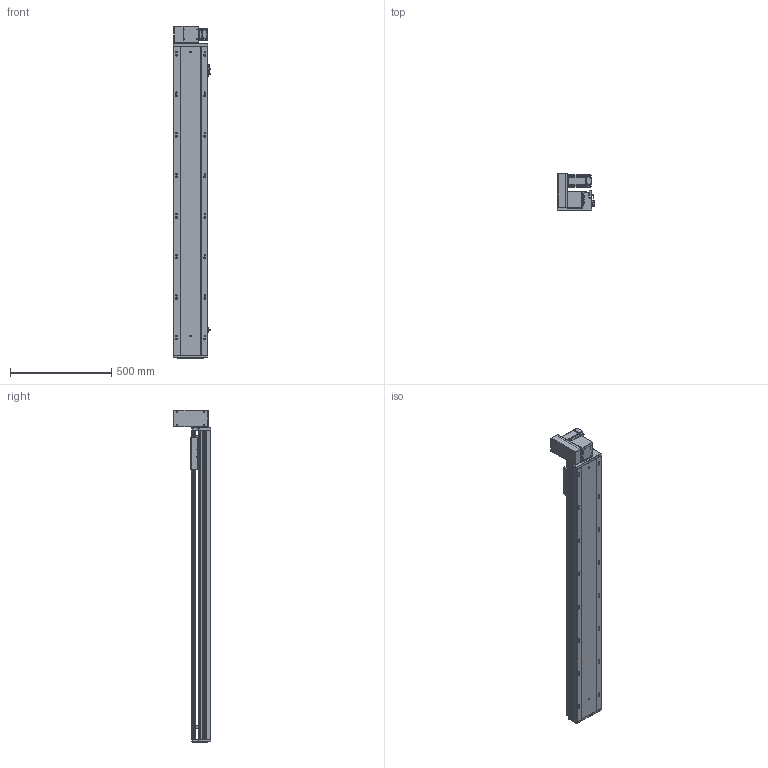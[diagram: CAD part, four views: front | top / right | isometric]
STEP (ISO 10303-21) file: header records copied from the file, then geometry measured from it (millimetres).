
FILE_DESCRIPTION (( 'STEP AP203' ), '1' );
FILE_NAME ('RY170-T-300-UL-P400W.SLDASM_1250.step', '2021-03-02T02:13:13', ( '盈信电脑' ), ( '东莞市道滘镇水果街19号' ), 'SwSTEP 2.0', 'SolidWorks 2012', '' );
FILE_SCHEMA (( 'CONFIG_CONTROL_DESIGN' ));
Length unit declared in the file: millimetre
Products named in the file (18): RY170同步轮电机安装板(400W); 15; RY170-T蹟翐M4; RY170-T-300-UL-P400W.SLDASM_1250; RY170-T肮祭謫裔啣; RY170肮祭謫萇儂欶; RY120-T主同步轮轴承压盖; 滅袉蝶18-10; RY170-T肮祭湍揤踡輸1; RY170-T肮祭湍揤踡輸2; RY170翋肮祭謫釱; RY170肮祭謫ヶ裔啣; 覜茼ん672; RY170外置感应片(200共用）; RY170綴裔啣; RY170-T-300肮祭謫倰第裔啣-DL_1250; RY170-T-300肮祭謫倰第菁釱-DL_1250; RY170肮祭湍臏賑輸
Assembly tree (20 placements, depth 2):
  RY170-T-300-UL-P400W.SLDASM_1250
    RY170-T-300肮祭謫倰第菁釱-DL_1250
    RY170肮祭湍臏賑輸
    RY170-T-300肮祭謫倰第裔啣-DL_1250
    RY170綴裔啣
    覜茼ん672  x3
    RY170外置感应片(200共用）
    RY170肮祭謫ヶ裔啣
    RY170翋肮祭謫釱
    RY170-T肮祭湍揤踡輸1
    RY170-T肮祭湍揤踡輸2
    RY170-T肮祭謫裔啣
    滅袉蝶18-10  x2
    RY120-T主同步轮轴承压盖
    RY170肮祭謫萇儂欶
    RY170同步轮电机安装板(400W)
    RY170-T蹟翐M4
    15
Bounding box: 183.7 x 184 x 1638 mm (x, y, z)
Volume: 7924364.9 mm3; surface area: 2691077.5 mm2
Topology: 20 solids, 20 shells, 2625 faces, 7314 edges, 4671 vertices
Faces by surface type: cylinder 1192, plane 1147, cone 256, bspline 30
Entity records: 83512 total; most frequent: CARTESIAN_POINT 18619, ORIENTED_EDGE 13232, DIRECTION 13036, EDGE_CURVE 6616, AXIS2_PLACEMENT_3D 4590, VERTEX_POINT 4339, LINE 3856, VECTOR 3856
